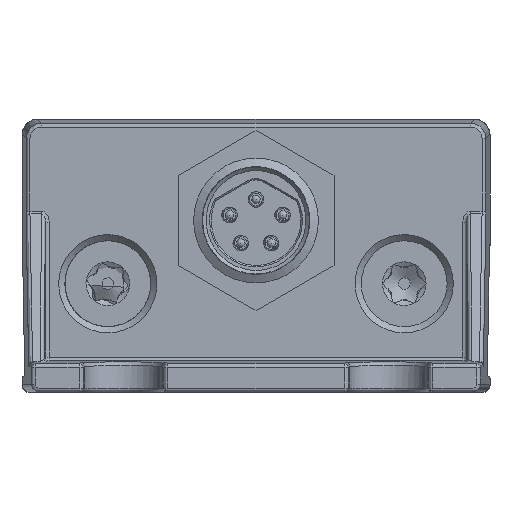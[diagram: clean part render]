
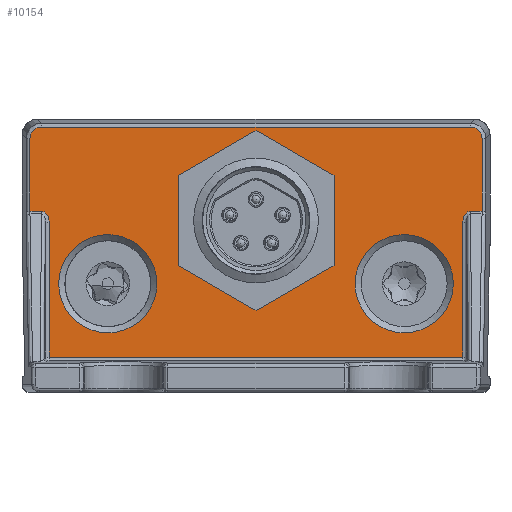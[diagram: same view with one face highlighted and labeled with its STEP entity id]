
A CAD part, front view. The second image highlights one B-rep face of the part: STEP entity #10154.
In plain terms, the highlighted planar face has unit normal (0, -1, 0).
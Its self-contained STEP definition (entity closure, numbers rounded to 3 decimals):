
#514=FACE_BOUND('',#1753,.T.);
#515=FACE_BOUND('',#1754,.T.);
#516=FACE_BOUND('',#1755,.T.);
#649=CIRCLE('',#10896,3.15);
#650=CIRCLE('',#10897,3.15);
#1150=FACE_OUTER_BOUND('',#1752,.T.);
#1752=EDGE_LOOP('',(#6726,#6727,#6728,#6729,#6730,#6731,#6732,#6733,#6734,
#6735,#6736,#6737));
#1753=EDGE_LOOP('',(#6738));
#1754=EDGE_LOOP('',(#6739));
#1755=EDGE_LOOP('',(#6740,#6741,#6742,#6743,#6744,#6745));
#2415=LINE('',#15582,#3124);
#2416=LINE('',#15584,#3125);
#2417=LINE('',#15586,#3126);
#2418=LINE('',#15590,#3127);
#2419=LINE('',#15592,#3128);
#2420=LINE('',#15596,#3129);
#2421=LINE('',#15600,#3130);
#2422=LINE('',#15601,#3131);
#2423=LINE('',#15608,#3132);
#2424=LINE('',#15610,#3133);
#2425=LINE('',#15612,#3134);
#2426=LINE('',#15614,#3135);
#2427=LINE('',#15616,#3136);
#2428=LINE('',#15617,#3137);
#3124=VECTOR('',#12418,1.);
#3125=VECTOR('',#12419,1.);
#3126=VECTOR('',#12420,1.);
#3127=VECTOR('',#12423,1.);
#3128=VECTOR('',#12424,1.);
#3129=VECTOR('',#12427,1.);
#3130=VECTOR('',#12430,1.);
#3131=VECTOR('',#12431,1.);
#3132=VECTOR('',#12436,1.);
#3133=VECTOR('',#12437,1.);
#3134=VECTOR('',#12438,1.);
#3135=VECTOR('',#12439,1.);
#3136=VECTOR('',#12440,1.);
#3137=VECTOR('',#12441,1.);
#3694=ELLIPSE('',#10892,0.707,0.5);
#3695=ELLIPSE('',#10893,0.707,0.5);
#3696=ELLIPSE('',#10894,0.75,0.75);
#3697=ELLIPSE('',#10895,0.75,0.75);
#4043=VERTEX_POINT('',#15578);
#4044=VERTEX_POINT('',#15579);
#4045=VERTEX_POINT('',#15581);
#4046=VERTEX_POINT('',#15583);
#4047=VERTEX_POINT('',#15585);
#4048=VERTEX_POINT('',#15587);
#4049=VERTEX_POINT('',#15589);
#4050=VERTEX_POINT('',#15591);
#4051=VERTEX_POINT('',#15593);
#4052=VERTEX_POINT('',#15595);
#4053=VERTEX_POINT('',#15597);
#4054=VERTEX_POINT('',#15599);
#4055=VERTEX_POINT('',#15602);
#4056=VERTEX_POINT('',#15604);
#4057=VERTEX_POINT('',#15606);
#4058=VERTEX_POINT('',#15607);
#4059=VERTEX_POINT('',#15609);
#4060=VERTEX_POINT('',#15611);
#4061=VERTEX_POINT('',#15613);
#4062=VERTEX_POINT('',#15615);
#5047=EDGE_CURVE('',#4043,#4044,#3694,.T.);
#5048=EDGE_CURVE('',#4045,#4043,#2415,.T.);
#5049=EDGE_CURVE('',#4045,#4046,#2416,.T.);
#5050=EDGE_CURVE('',#4047,#4046,#2417,.T.);
#5051=EDGE_CURVE('',#4048,#4047,#3695,.T.);
#5052=EDGE_CURVE('',#4048,#4049,#2418,.T.);
#5053=EDGE_CURVE('',#4049,#4050,#2419,.T.);
#5054=EDGE_CURVE('',#4050,#4051,#3696,.T.);
#5055=EDGE_CURVE('',#4051,#4052,#2420,.T.);
#5056=EDGE_CURVE('',#4052,#4053,#3697,.T.);
#5057=EDGE_CURVE('',#4053,#4054,#2421,.T.);
#5058=EDGE_CURVE('',#4054,#4044,#2422,.T.);
#5059=EDGE_CURVE('',#4055,#4055,#649,.T.);
#5060=EDGE_CURVE('',#4056,#4056,#650,.T.);
#5061=EDGE_CURVE('',#4057,#4058,#2423,.T.);
#5062=EDGE_CURVE('',#4059,#4057,#2424,.T.);
#5063=EDGE_CURVE('',#4060,#4059,#2425,.T.);
#5064=EDGE_CURVE('',#4061,#4060,#2426,.T.);
#5065=EDGE_CURVE('',#4062,#4061,#2427,.T.);
#5066=EDGE_CURVE('',#4058,#4062,#2428,.T.);
#6726=ORIENTED_EDGE('',*,*,#5047,.F.);
#6727=ORIENTED_EDGE('',*,*,#5048,.F.);
#6728=ORIENTED_EDGE('',*,*,#5049,.T.);
#6729=ORIENTED_EDGE('',*,*,#5050,.F.);
#6730=ORIENTED_EDGE('',*,*,#5051,.F.);
#6731=ORIENTED_EDGE('',*,*,#5052,.T.);
#6732=ORIENTED_EDGE('',*,*,#5053,.T.);
#6733=ORIENTED_EDGE('',*,*,#5054,.T.);
#6734=ORIENTED_EDGE('',*,*,#5055,.T.);
#6735=ORIENTED_EDGE('',*,*,#5056,.T.);
#6736=ORIENTED_EDGE('',*,*,#5057,.T.);
#6737=ORIENTED_EDGE('',*,*,#5058,.T.);
#6738=ORIENTED_EDGE('',*,*,#5059,.T.);
#6739=ORIENTED_EDGE('',*,*,#5060,.T.);
#6740=ORIENTED_EDGE('',*,*,#5061,.F.);
#6741=ORIENTED_EDGE('',*,*,#5062,.F.);
#6742=ORIENTED_EDGE('',*,*,#5063,.F.);
#6743=ORIENTED_EDGE('',*,*,#5064,.F.);
#6744=ORIENTED_EDGE('',*,*,#5065,.F.);
#6745=ORIENTED_EDGE('',*,*,#5066,.F.);
#9301=PLANE('',#10891);
#10154=ADVANCED_FACE('',(#1150,#514,#515,#516),#9301,.T.);
#10891=AXIS2_PLACEMENT_3D('',#15577,#12414,#12415);
#10892=AXIS2_PLACEMENT_3D('',#15580,#12416,#12417);
#10893=AXIS2_PLACEMENT_3D('',#15588,#12421,#12422);
#10894=AXIS2_PLACEMENT_3D('',#15594,#12425,#12426);
#10895=AXIS2_PLACEMENT_3D('',#15598,#12428,#12429);
#10896=AXIS2_PLACEMENT_3D('',#15603,#12432,#12433);
#10897=AXIS2_PLACEMENT_3D('',#15605,#12434,#12435);
#12414=DIRECTION('center_axis',(0.,-1.,0.));
#12415=DIRECTION('ref_axis',(0.,0.,
1.));
#12416=DIRECTION('center_axis',(0.,-1.,0.));
#12417=DIRECTION('ref_axis',(0.009,0.,
1.));
#12418=DIRECTION('',(0.,0.,1.));
#12419=DIRECTION('',(1.,0.,0.));
#12420=DIRECTION('',(0.,0.,-1.));
#12421=DIRECTION('center_axis',(0.,-1.,0.));
#12422=DIRECTION('ref_axis',(-0.009,0.,
1.));
#12423=DIRECTION('',(1.,0.,0.));
#12424=DIRECTION('',(0.,0.,1.));
#12425=DIRECTION('center_axis',(0.,-1.,0.));
#12426=DIRECTION('ref_axis',(0.707,0.,0.707));
#12427=DIRECTION('',(-1.,0.,0.));
#12428=DIRECTION('center_axis',(0.,-1.,0.));
#12429=DIRECTION('ref_axis',(-0.707,0.,0.707));
#12430=DIRECTION('',(0.,0.,-1.));
#12431=DIRECTION('',(1.,0.,0.));
#12432=DIRECTION('center_axis',(0.,1.,0.));
#12433=DIRECTION('ref_axis',(0.,0.,
-1.));
#12434=DIRECTION('center_axis',(0.,1.,0.));
#12435=DIRECTION('ref_axis',(0.,0.,
-1.));
#12436=DIRECTION('',(0.,0.,1.));
#12437=DIRECTION('',(0.866,0.,0.5));
#12438=DIRECTION('',(0.866,0.,-0.5));
#12439=DIRECTION('',(0.,0.,-1.));
#12440=DIRECTION('',(-0.866,0.,-0.5));
#12441=DIRECTION('',(-0.866,0.,0.5));
#15577=CARTESIAN_POINT('Origin',(-38.127,-212.291,-11.542));
#15578=CARTESIAN_POINT('',(-51.379,-212.291,-9.392));
#15579=CARTESIAN_POINT('',(-51.876,-212.291,-8.689));
#15580=CARTESIAN_POINT('Origin',(-51.879,-212.291,-9.396));
#15581=CARTESIAN_POINT('',(-51.379,-212.291,-18.045));
#15582=CARTESIAN_POINT('',(-51.379,-212.291,-11.542));
#15583=CARTESIAN_POINT('',(-24.875,-212.291,-18.045));
#15584=CARTESIAN_POINT('',(-24.627,-212.291,-18.045));
#15585=CARTESIAN_POINT('',(-24.875,-212.291,-9.392));
#15586=CARTESIAN_POINT('',(-24.875,-212.291,-11.542));
#15587=CARTESIAN_POINT('',(-24.378,-212.291,-8.689));
#15588=CARTESIAN_POINT('Origin',(-24.375,-212.291,-9.396));
#15589=CARTESIAN_POINT('',(-23.634,-212.291,-8.689));
#15590=CARTESIAN_POINT('',(-23.389,-212.291,-8.689));
#15591=CARTESIAN_POINT('',(-23.634,-212.291,-4.05));
#15592=CARTESIAN_POINT('',(-23.634,-212.291,-11.542));
#15593=CARTESIAN_POINT('',(-24.384,-212.291,-3.3));
#15594=CARTESIAN_POINT('Origin',(-24.385,-212.291,-4.05));
#15595=CARTESIAN_POINT('',(-51.87,-212.291,-3.3));
#15596=CARTESIAN_POINT('',(-38.127,-212.291,-3.3));
#15597=CARTESIAN_POINT('',(-52.619,-212.291,-4.05));
#15598=CARTESIAN_POINT('Origin',(-51.869,-212.291,-4.05));
#15599=CARTESIAN_POINT('',(-52.619,-212.291,-8.689));
#15600=CARTESIAN_POINT('',(-52.619,-212.291,-11.542));
#15601=CARTESIAN_POINT('',(-51.627,-212.291,-8.689));
#15602=CARTESIAN_POINT('',(-28.627,-212.291,-16.492));
#15603=CARTESIAN_POINT('Origin',(-28.627,-212.291,-13.342));
#15604=CARTESIAN_POINT('',(-47.627,-212.291,-16.492));
#15605=CARTESIAN_POINT('Origin',(-47.627,-212.291,-13.342));
#15606=CARTESIAN_POINT('',(-33.127,-212.291,-12.179));
#15607=CARTESIAN_POINT('',(-33.127,-212.291,-6.406));
#15608=CARTESIAN_POINT('',(-33.127,-212.291,-14.292));
#15609=CARTESIAN_POINT('',(-38.127,-212.291,-15.066));
#15610=CARTESIAN_POINT('',(-39.957,-212.291,-16.123));
#15611=CARTESIAN_POINT('',(-43.127,-212.291,-12.179));
#15612=CARTESIAN_POINT('',(-44.957,-212.291,-11.123));
#15613=CARTESIAN_POINT('',(-43.127,-212.291,-6.406));
#15614=CARTESIAN_POINT('',(-43.127,-212.291,-4.292));
#15615=CARTESIAN_POINT('',(-38.127,-212.291,-3.519));
#15616=CARTESIAN_POINT('',(-36.297,-212.291,-2.462));
#15617=CARTESIAN_POINT('',(-31.297,-212.291,-7.462));
